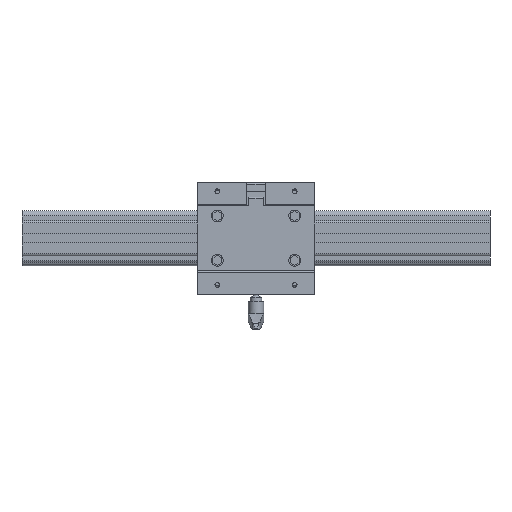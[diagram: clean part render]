
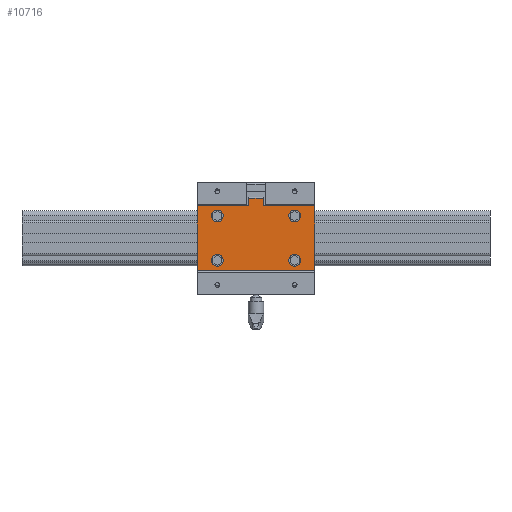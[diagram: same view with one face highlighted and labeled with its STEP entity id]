
A CAD part, top view. The second image highlights one B-rep face of the part: STEP entity #10716.
In plain terms, the highlighted planar face has unit normal (0, 0, 1).
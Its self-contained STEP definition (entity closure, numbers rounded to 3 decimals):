
#6411=CARTESIAN_POINT('',(78.0,-19.0,21.7));
#6412=VERTEX_POINT('',#6411);
#6413=CARTESIAN_POINT('',(83.0,-19.0,21.7));
#6414=DIRECTION('',(0.0,0.0,-1.0));
#6415=DIRECTION('',(-1.0,0.0,0.0));
#6416=AXIS2_PLACEMENT_3D('',#6413,#6414,#6415);
#6417=CIRCLE('',#6416,5.);
#6418=EDGE_CURVE('',#6412,#6412,#6417,.T.);
#6507=CARTESIAN_POINT('',(12.,-19.0,21.7));
#6508=VERTEX_POINT('',#6507);
#6509=CARTESIAN_POINT('',(17.0,-19.0,21.7));
#6510=DIRECTION('',(0.0,0.0,-1.0));
#6511=DIRECTION('',(-1.0,0.0,0.0));
#6512=AXIS2_PLACEMENT_3D('',#6509,#6510,#6511);
#6513=CIRCLE('',#6512,5.);
#6514=EDGE_CURVE('',#6508,#6508,#6513,.T.);
#6603=CARTESIAN_POINT('',(78.0,19.0,21.7));
#6604=VERTEX_POINT('',#6603);
#6605=CARTESIAN_POINT('',(83.0,19.0,21.7));
#6606=DIRECTION('',(0.0,0.0,-1.0));
#6607=DIRECTION('',(-1.0,0.0,0.0));
#6608=AXIS2_PLACEMENT_3D('',#6605,#6606,#6607);
#6609=CIRCLE('',#6608,5.);
#6610=EDGE_CURVE('',#6604,#6604,#6609,.T.);
#6885=CARTESIAN_POINT('',(12.,19.0,21.7));
#6886=VERTEX_POINT('',#6885);
#6887=CARTESIAN_POINT('',(17.,19.0,21.7));
#6888=DIRECTION('',(0.0,0.0,-1.0));
#6889=DIRECTION('',(-1.0,0.0,0.0));
#6890=AXIS2_PLACEMENT_3D('',#6887,#6888,#6889);
#6891=CIRCLE('',#6890,5.);
#6892=EDGE_CURVE('',#6886,#6886,#6891,.T.);
#9783=CARTESIAN_POINT('',(44.0,27.7,21.7));
#9784=VERTEX_POINT('',#9783);
#9791=CARTESIAN_POINT('',(44.0,34.,21.7));
#9792=VERTEX_POINT('',#9791);
#9793=CARTESIAN_POINT('',(44.0,34.,21.7));
#9794=DIRECTION('',(0.0,-1.0,0.0));
#9795=VECTOR('',#9794,6.3);
#9796=LINE('',#9793,#9795);
#9797=EDGE_CURVE('',#9792,#9784,#9796,.T.);
#9830=CARTESIAN_POINT('',(56.,34.,21.7));
#9831=VERTEX_POINT('',#9830);
#9848=CARTESIAN_POINT('',(56.,34.,21.7));
#9849=DIRECTION('',(-1.0,0.0,0.0));
#9850=VECTOR('',#9849,12.);
#9851=LINE('',#9848,#9850);
#9852=EDGE_CURVE('',#9831,#9792,#9851,.T.);
#9972=CARTESIAN_POINT('',(56.,27.7,21.7));
#9973=VERTEX_POINT('',#9972);
#9974=CARTESIAN_POINT('',(56.,27.7,21.7));
#9975=DIRECTION('',(0.0,1.0,0.0));
#9976=VECTOR('',#9975,6.3);
#9977=LINE('',#9974,#9976);
#9978=EDGE_CURVE('',#9973,#9831,#9977,.T.);
#10003=CARTESIAN_POINT('',(42.0,27.7,21.7));
#10004=VERTEX_POINT('',#10003);
#10011=CARTESIAN_POINT('',(42.0,27.7,21.7));
#10012=DIRECTION('',(1.0,0.0,0.0));
#10013=VECTOR('',#10012,2.0);
#10014=LINE('',#10011,#10013);
#10015=EDGE_CURVE('',#10004,#9784,#10014,.T.);
#10026=CARTESIAN_POINT('',(58.,27.7,21.7));
#10027=VERTEX_POINT('',#10026);
#10028=CARTESIAN_POINT('',(56.,27.7,21.7));
#10029=DIRECTION('',(1.0,0.0,0.0));
#10030=VECTOR('',#10029,2.0);
#10031=LINE('',#10028,#10030);
#10032=EDGE_CURVE('',#9973,#10027,#10031,.T.);
#10508=CARTESIAN_POINT('',(100.0,27.7,21.7));
#10509=VERTEX_POINT('',#10508);
#10510=CARTESIAN_POINT('',(58.,27.7,21.7));
#10511=DIRECTION('',(1.0,0.0,0.0));
#10512=VECTOR('',#10511,42.);
#10513=LINE('',#10510,#10512);
#10514=EDGE_CURVE('',#10027,#10509,#10513,.T.);
#10642=CARTESIAN_POINT('',(100.0,-27.7,21.7));
#10643=VERTEX_POINT('',#10642);
#10651=CARTESIAN_POINT('',(0.0,-27.7,21.7));
#10652=VERTEX_POINT('',#10651);
#10653=CARTESIAN_POINT('',(0.0,-27.7,21.7));
#10654=DIRECTION('',(1.0,0.0,0.0));
#10655=VECTOR('',#10654,100.0);
#10656=LINE('',#10653,#10655);
#10657=EDGE_CURVE('',#10652,#10643,#10656,.T.);
#10670=CARTESIAN_POINT('',(0.0,-27.7,21.7));
#10671=DIRECTION('',(0.0,0.0,1.0));
#10672=DIRECTION('',(1.0,0.0,0.0));
#10673=AXIS2_PLACEMENT_3D('',#10670,#10671,#10672);
#10674=PLANE('',#10673);
#10675=CARTESIAN_POINT('',(100.0,-27.7,21.7));
#10676=DIRECTION('',(0.0,1.0,0.0));
#10677=VECTOR('',#10676,55.4);
#10678=LINE('',#10675,#10677);
#10679=EDGE_CURVE('',#10643,#10509,#10678,.T.);
#10680=ORIENTED_EDGE('',*,*,#10679,.T.);
#10681=ORIENTED_EDGE('',*,*,#10514,.F.);
#10682=ORIENTED_EDGE('',*,*,#10032,.F.);
#10683=ORIENTED_EDGE('',*,*,#9978,.T.);
#10684=ORIENTED_EDGE('',*,*,#9852,.T.);
#10685=ORIENTED_EDGE('',*,*,#9797,.T.);
#10686=ORIENTED_EDGE('',*,*,#10015,.F.);
#10687=CARTESIAN_POINT('',(0.0,27.7,21.7));
#10688=VERTEX_POINT('',#10687);
#10689=CARTESIAN_POINT('',(0.0,27.7,21.7));
#10690=DIRECTION('',(1.0,0.0,0.0));
#10691=VECTOR('',#10690,42.0);
#10692=LINE('',#10689,#10691);
#10693=EDGE_CURVE('',#10688,#10004,#10692,.T.);
#10694=ORIENTED_EDGE('',*,*,#10693,.F.);
#10695=CARTESIAN_POINT('',(0.0,27.7,21.7));
#10696=DIRECTION('',(0.0,-1.0,0.0));
#10697=VECTOR('',#10696,55.4);
#10698=LINE('',#10695,#10697);
#10699=EDGE_CURVE('',#10688,#10652,#10698,.T.);
#10700=ORIENTED_EDGE('',*,*,#10699,.T.);
#10701=ORIENTED_EDGE('',*,*,#10657,.T.);
#10702=EDGE_LOOP('',(#10680,#10681,#10682,#10683,#10684,#10685,#10686,#10694,#10700,#10701));
#10703=FACE_OUTER_BOUND('',#10702,.T.);
#10704=ORIENTED_EDGE('',*,*,#6418,.T.);
#10705=EDGE_LOOP('',(#10704));
#10706=FACE_BOUND('',#10705,.T.);
#10707=ORIENTED_EDGE('',*,*,#6514,.T.);
#10708=EDGE_LOOP('',(#10707));
#10709=FACE_BOUND('',#10708,.T.);
#10710=ORIENTED_EDGE('',*,*,#6610,.T.);
#10711=EDGE_LOOP('',(#10710));
#10712=FACE_BOUND('',#10711,.T.);
#10713=ORIENTED_EDGE('',*,*,#6892,.T.);
#10714=EDGE_LOOP('',(#10713));
#10715=FACE_BOUND('',#10714,.T.);
#10716=ADVANCED_FACE('',(#10703,#10706,#10709,#10712,#10715),#10674,.T.);
